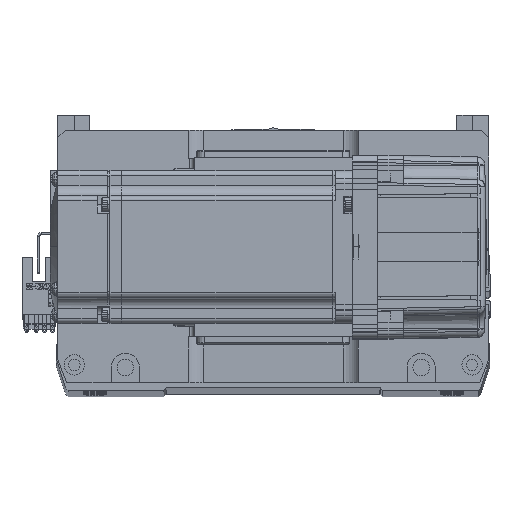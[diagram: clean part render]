
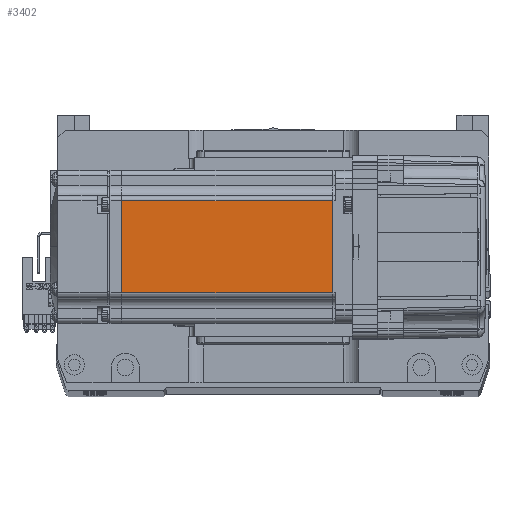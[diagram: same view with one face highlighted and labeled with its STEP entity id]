
A CAD part, top view. The second image highlights one B-rep face of the part: STEP entity #3402.
In plain terms, the highlighted planar face has unit normal (0, 0, 1).
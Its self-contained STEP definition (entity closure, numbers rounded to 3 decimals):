
#1658 = ORIENTED_EDGE ( 'NONE', *, *, #45426, .T. ) ;
#2324 = DIRECTION ( 'NONE',  ( -1., 0., 0. ) ) ;
#3402 = ADVANCED_FACE ( 'NONE', ( #13247 ), #6710, .T. ) ;
#3582 = EDGE_CURVE ( 'NONE', #53888, #61709, #9335, .T. ) ;
#3620 = LINE ( 'NONE', #58573, #41851 ) ;
#6627 = ORIENTED_EDGE ( 'NONE', *, *, #63834, .T. ) ;
#6710 = PLANE ( 'NONE',  #7057 ) ;
#7057 = AXIS2_PLACEMENT_3D ( 'NONE', #16370, #21315, #61461 ) ;
#9335 = LINE ( 'NONE', #42483, #34318 ) ;
#9597 = ORIENTED_EDGE ( 'NONE', *, *, #43823, .F. ) ;
#13194 = LINE ( 'NONE', #42781, #22522 ) ;
#13247 = FACE_OUTER_BOUND ( 'NONE', #54075, .T. ) ;
#16027 = CARTESIAN_POINT ( 'NONE',  ( -7.75, 18., 30. ) ) ;
#16370 = CARTESIAN_POINT ( 'NONE',  ( -6.5, -25., 30. ) ) ;
#18945 = VECTOR ( 'NONE', #2324, 1000. ) ;
#21315 = DIRECTION ( 'NONE',  ( 0., 0., 1. ) ) ;
#22522 = VECTOR ( 'NONE', #42343, 1000. ) ;
#27836 = DIRECTION ( 'NONE',  ( 0., -1., 0. ) ) ;
#34318 = VECTOR ( 'NONE', #37460, 1000. ) ;
#37460 = DIRECTION ( 'NONE',  ( -1., 0., 0. ) ) ;
#41851 = VECTOR ( 'NONE', #27836, 1000. ) ;
#42170 = ORIENTED_EDGE ( 'NONE', *, *, #3582, .F. ) ;
#42343 = DIRECTION ( 'NONE',  ( 0., -1., 0. ) ) ;
#42483 = CARTESIAN_POINT ( 'NONE',  ( -6.5, -18., 30. ) ) ;
#42781 = CARTESIAN_POINT ( 'NONE',  ( -90.45, 0., 30. ) ) ;
#43823 = EDGE_CURVE ( 'NONE', #63650, #53888, #3620, .T. ) ;
#45426 = EDGE_CURVE ( 'NONE', #63650, #51568, #45491, .T. ) ;
#45491 = LINE ( 'NONE', #46652, #18945 ) ;
#46652 = CARTESIAN_POINT ( 'NONE',  ( -6.5, 18., 30. ) ) ;
#49587 = CARTESIAN_POINT ( 'NONE',  ( -90.45, -18., 30. ) ) ;
#51568 = VERTEX_POINT ( 'NONE', #59494 ) ;
#53888 = VERTEX_POINT ( 'NONE', #63666 ) ;
#54075 = EDGE_LOOP ( 'NONE', ( #9597, #1658, #6627, #42170 ) ) ;
#58573 = CARTESIAN_POINT ( 'NONE',  ( -7.75, 0., 30. ) ) ;
#59494 = CARTESIAN_POINT ( 'NONE',  ( -90.45, 18., 30. ) ) ;
#61461 = DIRECTION ( 'NONE',  ( 1., 0., 0. ) ) ;
#61709 = VERTEX_POINT ( 'NONE', #49587 ) ;
#63650 = VERTEX_POINT ( 'NONE', #16027 ) ;
#63666 = CARTESIAN_POINT ( 'NONE',  ( -7.75, -18., 30. ) ) ;
#63834 = EDGE_CURVE ( 'NONE', #51568, #61709, #13194, .T. ) ;
